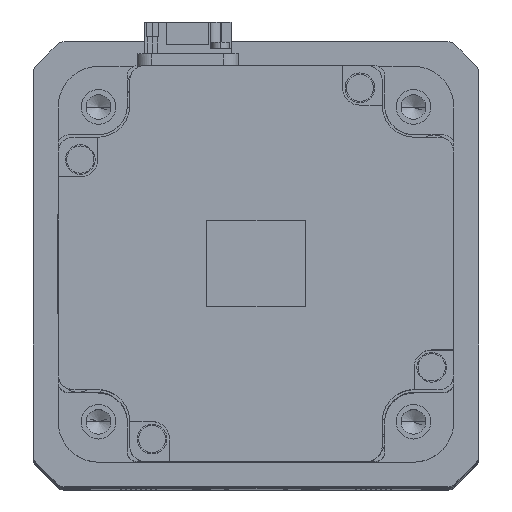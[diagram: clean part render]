
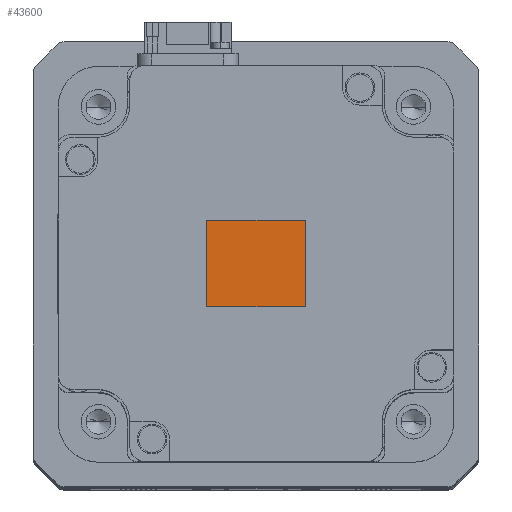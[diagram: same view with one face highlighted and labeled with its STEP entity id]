
A CAD part, top view. The second image highlights one B-rep face of the part: STEP entity #43600.
In plain terms, the highlighted planar face has unit normal (0, 0, 1) as drawn and (0, 0, -1) by its records, which use the part's own axes.
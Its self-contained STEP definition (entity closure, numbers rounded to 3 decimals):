
#2647 = DIRECTION ( 'NONE',  ( -1., 0., 0. ) ) ;
#2944 = CARTESIAN_POINT ( 'NONE',  ( -10., 8.75, -115.1 ) ) ;
#3031 = EDGE_CURVE ( 'NONE', #4870, #7823, #30948, .T. ) ;
#3751 = VERTEX_POINT ( 'NONE', #2944 ) ;
#4870 = VERTEX_POINT ( 'NONE', #45221 ) ;
#6047 = CARTESIAN_POINT ( 'NONE',  ( 10., 8.75, -115.1 ) ) ;
#6315 = CARTESIAN_POINT ( 'NONE',  ( 10., -8.75, -115.1 ) ) ;
#6594 = EDGE_LOOP ( 'NONE', ( #16583, #36825, #42054, #39344 ) ) ;
#7823 = VERTEX_POINT ( 'NONE', #13537 ) ;
#8576 = CARTESIAN_POINT ( 'NONE',  ( 10., 8.75, -115.1 ) ) ;
#8961 = LINE ( 'NONE', #6047, #10054 ) ;
#10054 = VECTOR ( 'NONE', #27042, 1000. ) ;
#10190 = LINE ( 'NONE', #42187, #36986 ) ;
#10546 = FACE_OUTER_BOUND ( 'NONE', #6594, .T. ) ;
#13033 = CARTESIAN_POINT ( 'NONE',  ( 10., -8.75, -115.1 ) ) ;
#13537 = CARTESIAN_POINT ( 'NONE',  ( -10., -8.75, -115.1 ) ) ;
#16583 = ORIENTED_EDGE ( 'NONE', *, *, #28988, .T. ) ;
#18942 = VECTOR ( 'NONE', #44680, 1000. ) ;
#19457 = DIRECTION ( 'NONE',  ( -1., 0., 0. ) ) ;
#19692 = EDGE_CURVE ( 'NONE', #3751, #35463, #10190, .T. ) ;
#20055 = LINE ( 'NONE', #41215, #18942 ) ;
#20086 = PLANE ( 'NONE',  #23269 ) ;
#20564 = VECTOR ( 'NONE', #19457, 1000. ) ;
#21472 = DIRECTION ( 'NONE',  ( 1., 0., 0. ) ) ;
#23269 = AXIS2_PLACEMENT_3D ( 'NONE', #13033, #23627, #2647 ) ;
#23627 = DIRECTION ( 'NONE',  ( 0., 0., -1. ) ) ;
#27042 = DIRECTION ( 'NONE',  ( 0., -1., 0. ) ) ;
#28988 = EDGE_CURVE ( 'NONE', #7823, #3751, #20055, .T. ) ;
#30948 = LINE ( 'NONE', #6315, #20564 ) ;
#35463 = VERTEX_POINT ( 'NONE', #8576 ) ;
#36825 = ORIENTED_EDGE ( 'NONE', *, *, #19692, .T. ) ;
#36986 = VECTOR ( 'NONE', #21472, 1000. ) ;
#39344 = ORIENTED_EDGE ( 'NONE', *, *, #3031, .T. ) ;
#41215 = CARTESIAN_POINT ( 'NONE',  ( -10., 8.75, -115.1 ) ) ;
#42054 = ORIENTED_EDGE ( 'NONE', *, *, #43009, .T. ) ;
#42187 = CARTESIAN_POINT ( 'NONE',  ( 10., 8.75, -115.1 ) ) ;
#43009 = EDGE_CURVE ( 'NONE', #35463, #4870, #8961, .T. ) ;
#43600 = ADVANCED_FACE ( 'NONE', ( #10546 ), #20086, .T. ) ;
#44680 = DIRECTION ( 'NONE',  ( 0., 1., 0. ) ) ;
#45221 = CARTESIAN_POINT ( 'NONE',  ( 10., -8.75, -115.1 ) ) ;
